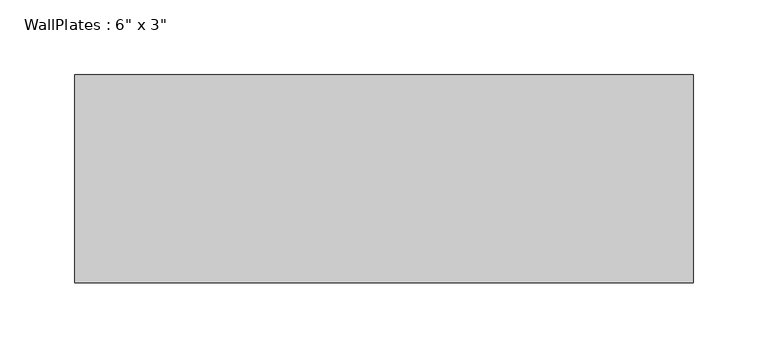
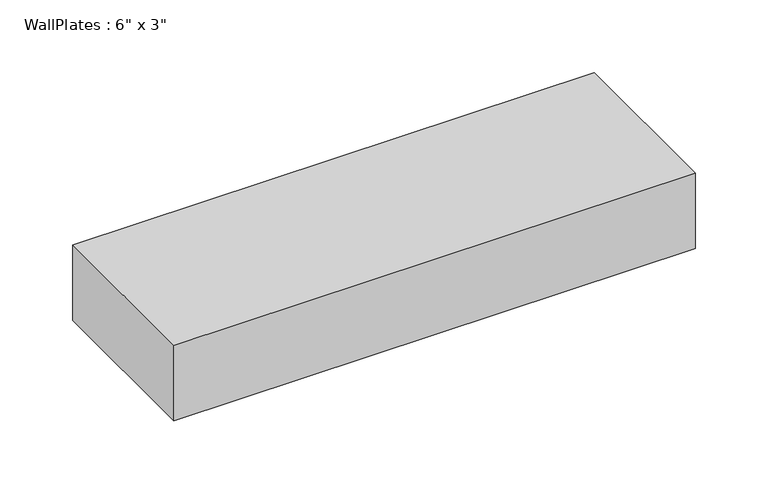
"""IFC4 building model written with IfcOpenShell, lengths in millimetres: beam geometry."""

from ifc_helpers import new_model, si_unit, frame, origin, place, context, project, spatial, polyline, outline, extrude, source, transform, mapped, element, save


def beam_fba9aa39(model_context):
    return source(origin(), model_context, "Body", "SweptSolid", [
        extrude(outline(polyline([(-207.4283333, -69.85), (-207.4283333, 69.85), (207.4283333, 69.85), (207.4283333, -69.85), (-207.4283333, -69.85)])), frame((0.0, 0.0, -31.75), z_axis=(0.0, 0.0, 1.0), x_axis=(1.0, 0.0, 0.0)), (0.0, 0.0, 1.0), 63.5),
    ])


if __name__ == "__main__":
    model = new_model("IFC4")
    model_context = context("Model", 3, world=origin())
    ifc_project = project(units=[si_unit("LENGTHUNIT", "METRE", prefix="MILLI")], contexts=[model_context])
    site = spatial("IfcSite", under=ifc_project)
    building = spatial("IfcBuilding", under=site)
    placement = place(None, origin())
    beam_shape = beam_fba9aa39(model_context)
    element("IfcBeam", 1, ObjectType="WallPlates : 6\" x 3\"", at=placement, inside=building, context=model_context, shape_type="MappedRepresentation", body=[
        mapped(beam_shape, transform((0.0, 0.0, 0.0), x_axis=(1.0, 0.0, 0.0), y_axis=(0.0, 1.0, 0.0), z_axis=(0.0, 0.0, 1.0))),
    ])
    save(model, "model.ifc")
